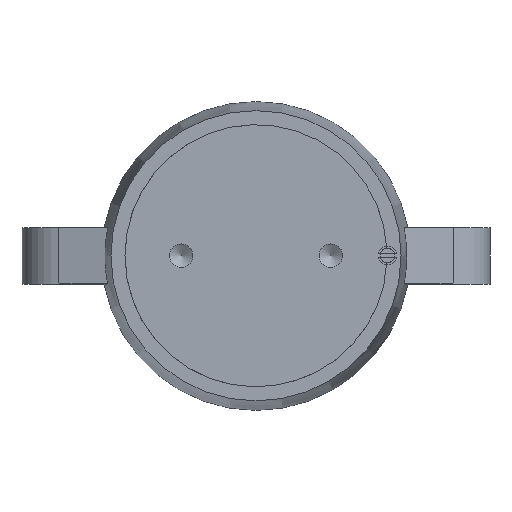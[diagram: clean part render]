
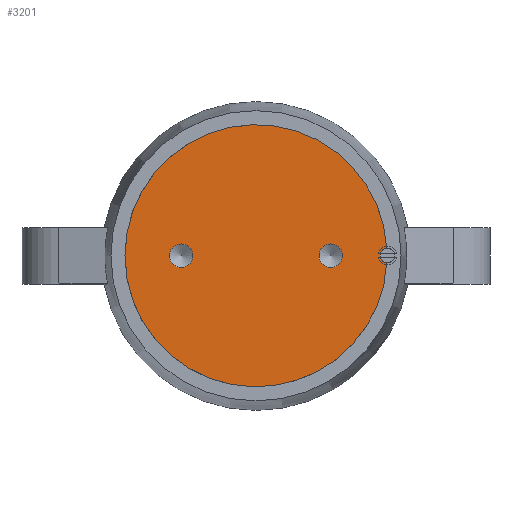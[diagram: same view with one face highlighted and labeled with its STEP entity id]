
A CAD part, top view. The second image highlights one B-rep face of the part: STEP entity #3201.
In plain terms, the highlighted planar face has unit normal (0, 0, 1).
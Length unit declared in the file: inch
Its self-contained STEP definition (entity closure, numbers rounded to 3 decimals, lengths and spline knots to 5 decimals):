
#164=PLANE('',#3498);
#255=FACE_BOUND('',#924,.T.);
#256=FACE_BOUND('',#925,.T.);
#668=FACE_OUTER_BOUND('',#923,.T.);
#923=EDGE_LOOP('',(#2344,#2345));
#924=EDGE_LOOP('',(#2346));
#925=EDGE_LOOP('',(#2347));
#1156=CIRCLE('',#3497,0.098);
#1157=CIRCLE('',#3499,1.75);
#1158=CIRCLE('',#3500,0.15745);
#1159=CIRCLE('',#3501,0.15745);
#1431=VERTEX_POINT('',#4957);
#1433=VERTEX_POINT('',#4961);
#1434=VERTEX_POINT('',#4966);
#1435=VERTEX_POINT('',#4968);
#1770=EDGE_CURVE('',#1431,#1433,#1156,.T.);
#1771=EDGE_CURVE('',#1433,#1431,#1157,.T.);
#1772=EDGE_CURVE('',#1434,#1434,#1158,.T.);
#1773=EDGE_CURVE('',#1435,#1435,#1159,.T.);
#2344=ORIENTED_EDGE('',*,*,#1770,.T.);
#2345=ORIENTED_EDGE('',*,*,#1771,.T.);
#2346=ORIENTED_EDGE('',*,*,#1772,.T.);
#2347=ORIENTED_EDGE('',*,*,#1773,.T.);
#3201=ADVANCED_FACE('',(#668,#255,#256),#164,.T.);
#3497=AXIS2_PLACEMENT_3D('',#4963,#4043,#4044);
#3498=AXIS2_PLACEMENT_3D('',#4964,#4045,#4046);
#3499=AXIS2_PLACEMENT_3D('',#4965,#4047,#4048);
#3500=AXIS2_PLACEMENT_3D('',#4967,#4049,#4050);
#3501=AXIS2_PLACEMENT_3D('',#4969,#4051,#4052);
#4043=DIRECTION('center_axis',(0.,0.,
-1.));
#4044=DIRECTION('ref_axis',(1.,0.,0.));
#4045=DIRECTION('center_axis',(0.,0.,
1.));
#4046=DIRECTION('ref_axis',(1.,0.,0.));
#4047=DIRECTION('center_axis',(0.,0.,
1.));
#4048=DIRECTION('ref_axis',(1.,0.,0.));
#4049=DIRECTION('center_axis',(0.,0.,
-1.));
#4050=DIRECTION('ref_axis',(1.,0.,0.));
#4051=DIRECTION('center_axis',(0.,0.,
-1.));
#4052=DIRECTION('ref_axis',(1.,0.,0.));
#4957=CARTESIAN_POINT('',(1.74743,-0.09477,6.));
#4961=CARTESIAN_POINT('',(1.74711,0.10049,6.));
#4963=CARTESIAN_POINT('Origin',(1.75577,0.00288,6.));
#4964=CARTESIAN_POINT('Origin',(0.875,0.,6.));
#4965=CARTESIAN_POINT('Origin',(0.,0.,
6.));
#4966=CARTESIAN_POINT('',(-0.84255,0.,6.));
#4967=CARTESIAN_POINT('Origin',(-1.,0.,6.));
#4968=CARTESIAN_POINT('',(1.15745,0.,6.));
#4969=CARTESIAN_POINT('Origin',(1.,0.,6.));
